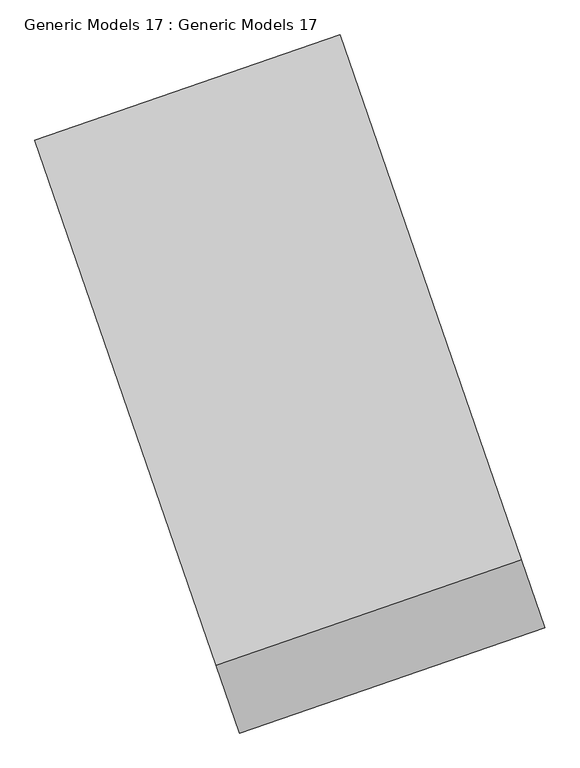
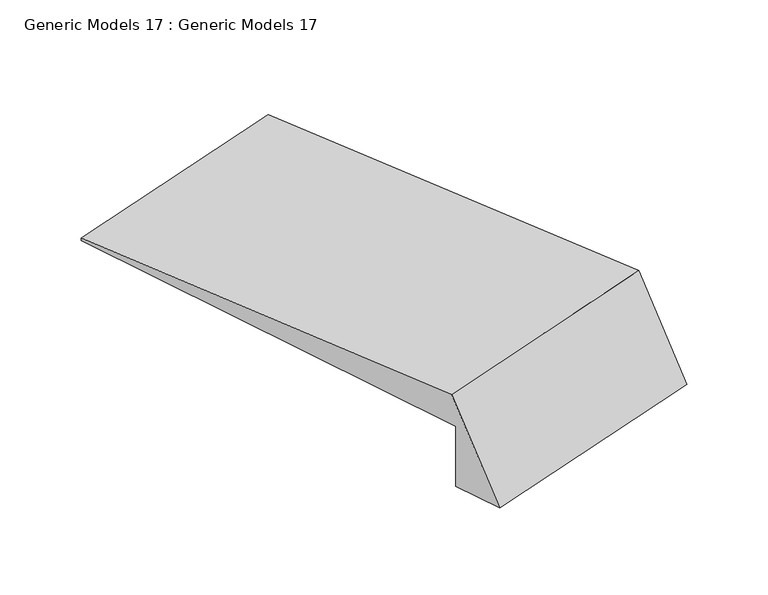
"""IFC4 building model written with IfcOpenShell, lengths in millimetres: proxy geometry, Generic Models 17 : Generic Models 17."""

from ifc_helpers import new_model, si_unit, frame, origin, place, context, project, spatial, polyline, outline, extrude, source, transform, mapped, element, save


def generic_models_17_generic_models_17_c1b150cb(model_context):
    return source(origin(), model_context, "Body", "SweptSolid", [
        extrude(outline(polyline([(0.0, 0.0), (12364.8102213, -25351.6178972), (12237.7943953, -25424.9505185), (-1980.980723, -797.3095922), (-5618.2874188, -2897.3095922), (-7291.0498918, -1e-07), (0.0, 0.0)])), frame((493903.9346162, 7538.6153477, 10364.2344266), z_axis=(0.9452094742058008, 0.32646446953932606, 0.0), x_axis=(-0.16323223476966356, 0.47260473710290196, 0.8660254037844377)), (0.0, 0.0, 1.0), 16386.8897791),
    ])


if __name__ == "__main__":
    model = new_model("IFC4")
    model_context = context("Model", 3, world=origin())
    ifc_project = project(units=[si_unit("LENGTHUNIT", "METRE", prefix="MILLI")], contexts=[model_context])
    site = spatial("IfcSite", under=ifc_project)
    building = spatial("IfcBuilding", under=site)
    placement = place(None, origin())
    generic_models_17_generic_models_17_shape = generic_models_17_generic_models_17_c1b150cb(model_context)
    element("IfcBuildingElementProxy", 1, Name="Generic Models 17 : Generic Models 17", ObjectType="Generic Models 17 : Generic Models 17", at=placement, inside=building, context=model_context, shape_type="MappedRepresentation", body=[
        mapped(generic_models_17_generic_models_17_shape, transform((0.0, 0.0, 0.0), x_axis=(1.0, 0.0, 0.0), y_axis=(0.0, 1.0, 0.0), z_axis=(0.0, 0.0, 1.0))),
    ])
    save(model, "model.ifc")
